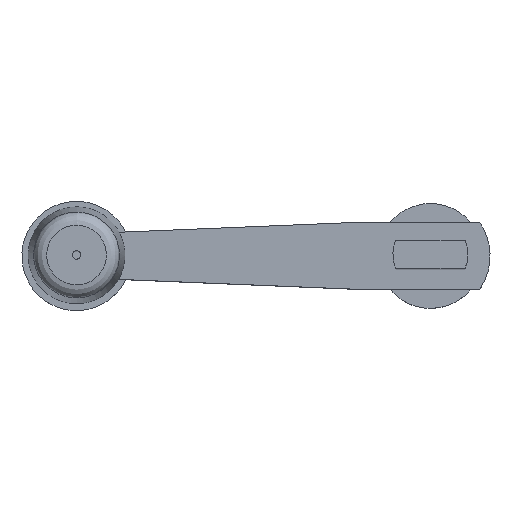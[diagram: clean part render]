
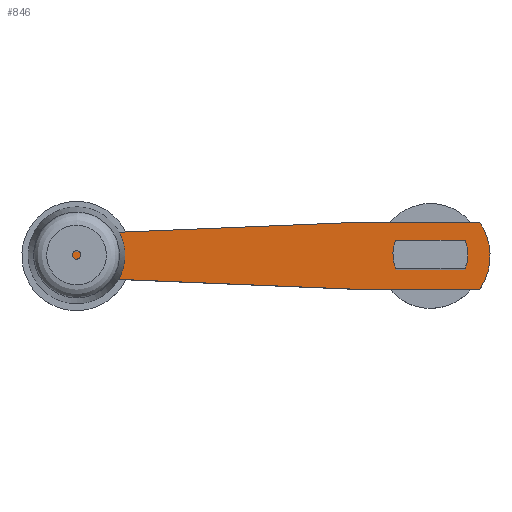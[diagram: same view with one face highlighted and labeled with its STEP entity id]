
A CAD part, top view. The second image highlights one B-rep face of the part: STEP entity #846.
In plain terms, the highlighted free-form (B-spline) face has degree [1, 1] with [2, 2] control points.
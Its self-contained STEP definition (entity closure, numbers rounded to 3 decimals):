
#791=CARTESIAN_POINT('',(-164.656,-30.029,40.));
#792=CARTESIAN_POINT('',(-164.656,171.189,40.));
#793=CARTESIAN_POINT('',(36.561,-30.029,40.));
#794=CARTESIAN_POINT('',(36.561,171.189,40.));
#795=B_SPLINE_SURFACE_WITH_KNOTS('',1,1,((#791,#792),(#793,#794)),.PLANE_SURF.,.F.,.F.,.U.,(2,2),(2,2),(0.,1.),(0.,1.),.UNSPECIFIED.);
#796=CARTESIAN_POINT('',(18.866,-12.7,40.));
#797=VERTEX_POINT('',#796);
#798=CARTESIAN_POINT('',(18.866,12.7,40.));
#799=VERTEX_POINT('',#798);
#800=CARTESIAN_POINT('',(18.866,-12.7,40.));
#801=CARTESIAN_POINT('',(27.415,0.,40.));
#802=CARTESIAN_POINT('',(18.866,12.7,40.));
#803=(BOUNDED_CURVE()B_SPLINE_CURVE(2,(#800,#801,#802),.CIRCULAR_ARC.,.F.,.U.)B_SPLINE_CURVE_WITH_KNOTS((3,3),(0.,1.),.UNSPECIFIED.)CURVE()GEOMETRIC_REPRESENTATION_ITEM()RATIONAL_B_SPLINE_CURVE((1.,0.83,1.))REPRESENTATION_ITEM(''));
#804=EDGE_CURVE('',#797,#799,#803,.T.);
#805=ORIENTED_EDGE('',*,*,#804,.T.);
#806=CARTESIAN_POINT('',(-29.762,12.7,40.));
#807=VERTEX_POINT('',#806);
#808=CARTESIAN_POINT('',(18.866,12.7,40.));
#809=CARTESIAN_POINT('',(-29.762,12.7,40.));
#810=B_SPLINE_CURVE_WITH_KNOTS('',1,(#808,#809),.POLYLINE_FORM.,.F.,.U.,(2,2),(0.,1.),.UNSPECIFIED.);
#811=EDGE_CURVE('',#799,#807,#810,.T.);
#812=ORIENTED_EDGE('',*,*,#811,.T.);
#813=CARTESIAN_POINT('',(-123.382,8.805,40.));
#814=VERTEX_POINT('',#813);
#815=CARTESIAN_POINT('',(-29.762,12.7,40.));
#816=CARTESIAN_POINT('',(-123.382,8.805,40.));
#817=B_SPLINE_CURVE_WITH_KNOTS('',1,(#815,#816),.POLYLINE_FORM.,.F.,.U.,(2,2),(0.,1.),.UNSPECIFIED.);
#818=EDGE_CURVE('',#807,#814,#817,.T.);
#819=ORIENTED_EDGE('',*,*,#818,.T.);
#820=CARTESIAN_POINT('',(-123.393,-8.805,40.));
#821=VERTEX_POINT('',#820);
#822=CARTESIAN_POINT('',(-123.382,8.805,40.));
#823=CARTESIAN_POINT('',(-132.9,20.895,40.));
#824=CARTESIAN_POINT('',(-144.205,10.458,40.));
#825=CARTESIAN_POINT('',(-155.51,0.02,40.));
#826=CARTESIAN_POINT('',(-144.218,-10.431,40.));
#827=CARTESIAN_POINT('',(-132.926,-20.882,40.));
#828=CARTESIAN_POINT('',(-123.393,-8.805,40.));
#829=(BOUNDED_CURVE()B_SPLINE_CURVE(2,(#822,#823,#824,#825,#826,#827,#828),.CIRCULAR_ARC.,.F.,.U.)B_SPLINE_CURVE_WITH_KNOTS((3,2,2,3),(0.,0.333,0.667,1.),.UNSPECIFIED.)CURVE()GEOMETRIC_REPRESENTATION_ITEM()RATIONAL_B_SPLINE_CURVE((1.,0.679,1.,0.679,1.,0.679,1.))REPRESENTATION_ITEM(''));
#830=EDGE_CURVE('',#814,#821,#829,.T.);
#831=ORIENTED_EDGE('',*,*,#830,.T.);
#832=CARTESIAN_POINT('',(-29.762,-12.7,40.));
#833=VERTEX_POINT('',#832);
#834=CARTESIAN_POINT('',(-123.393,-8.805,40.));
#835=CARTESIAN_POINT('',(-29.762,-12.7,40.));
#836=B_SPLINE_CURVE_WITH_KNOTS('',1,(#834,#835),.POLYLINE_FORM.,.F.,.U.,(2,2),(0.,1.),.UNSPECIFIED.);
#837=EDGE_CURVE('',#821,#833,#836,.T.);
#838=ORIENTED_EDGE('',*,*,#837,.T.);
#839=CARTESIAN_POINT('',(-29.762,-12.7,40.));
#840=CARTESIAN_POINT('',(18.866,-12.7,40.));
#841=B_SPLINE_CURVE_WITH_KNOTS('',1,(#839,#840),.POLYLINE_FORM.,.F.,.U.,(2,2),(0.,1.),.UNSPECIFIED.);
#842=EDGE_CURVE('',#833,#797,#841,.T.);
#843=ORIENTED_EDGE('',*,*,#842,.T.);
#844=EDGE_LOOP('',(#805,#812,#819,#831,#838,#843));
#845=FACE_OUTER_BOUND('',#844,.T.);
#846=ADVANCED_FACE('',(#845),#795,.T.);
